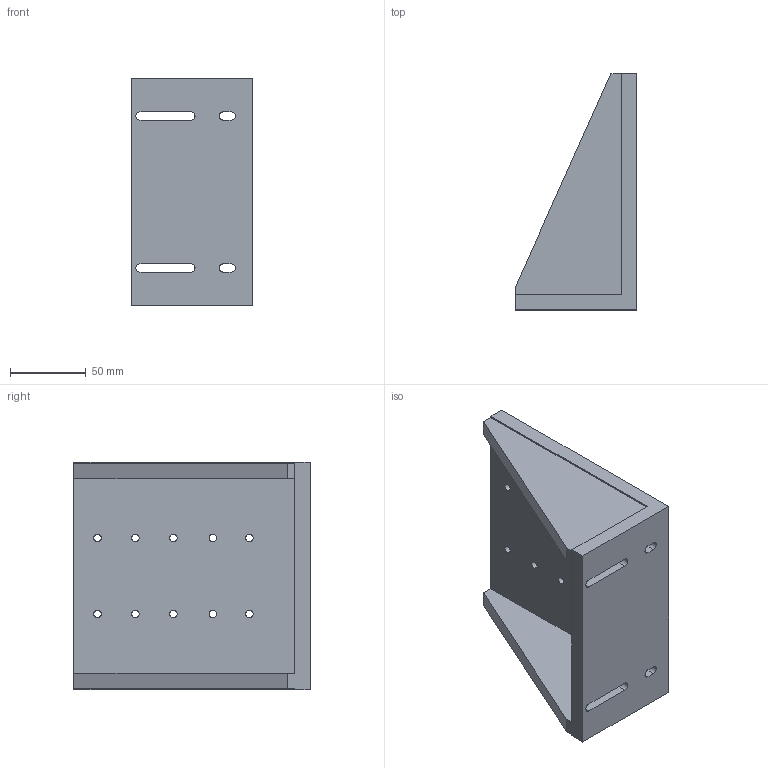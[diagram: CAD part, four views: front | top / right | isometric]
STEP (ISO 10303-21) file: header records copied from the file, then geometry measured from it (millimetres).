
FILE_DESCRIPTION (( 'STEP AP203' ), '1' );
FILE_NAME ('PJK30.STEP', '2022-04-10T01:08:35', ( '' ), ( '' ), 'SwSTEP 2.0', 'SolidWorks 2017', '' );
FILE_SCHEMA (( 'CONFIG_CONTROL_DESIGN' ));
Length unit declared in the file: millimetre
Products named in the file (1): PJK30
Bounding box: 80 x 155.5 x 150 mm (x, y, z)
Volume: 446286.2 mm3; surface area: 103888.7 mm2
Topology: 2 solids, 2 shells, 56 faces, 156 edges, 104 vertices
Faces by surface type: plane 28, cylinder 28
Entity records: 1947 total; most frequent: DIRECTION 326, CARTESIAN_POINT 317, ORIENTED_EDGE 312, EDGE_CURVE 156, AXIS2_PLACEMENT_3D 113, VERTEX_POINT 104, LINE 100, VECTOR 100
